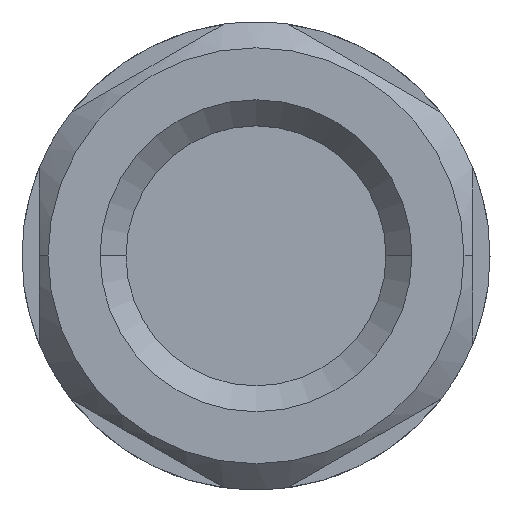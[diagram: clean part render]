
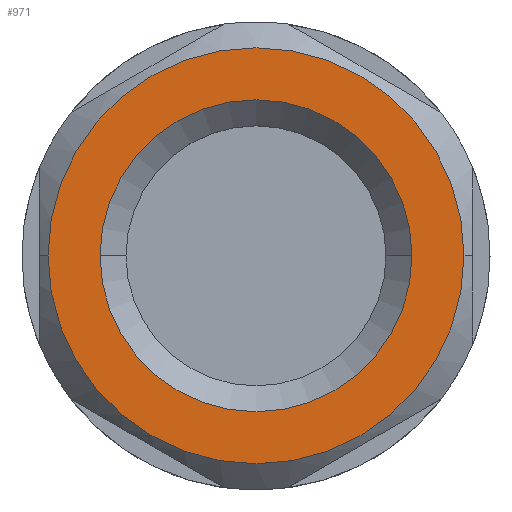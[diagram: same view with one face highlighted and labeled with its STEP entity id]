
A CAD part, top view. The second image highlights one B-rep face of the part: STEP entity #971.
In plain terms, the highlighted planar face has unit normal (0, 0, 1).
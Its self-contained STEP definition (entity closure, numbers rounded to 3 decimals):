
#2 = ORIENTED_EDGE ( 'NONE', *, *, #1022, .F. ) ;
#76 = VERTEX_POINT ( 'NONE', #826 ) ;
#78 = CARTESIAN_POINT ( 'NONE',  ( 8.999, 0., 9. ) ) ;
#86 = ORIENTED_EDGE ( 'NONE', *, *, #174, .F. ) ;
#92 = FACE_BOUND ( 'NONE', #770, .T. ) ;
#113 = DIRECTION ( 'NONE',  ( -1., 0., 0. ) ) ;
#133 = CIRCLE ( 'NONE', #365, 8.999 ) ;
#154 = DIRECTION ( 'NONE',  ( 0., 0., 1. ) ) ;
#163 = CARTESIAN_POINT ( 'NONE',  ( 12., 0., 9. ) ) ;
#166 = DIRECTION ( 'NONE',  ( 1., 0., 0. ) ) ;
#174 = EDGE_CURVE ( 'NONE', #403, #523, #133, .T. ) ;
#188 = CARTESIAN_POINT ( 'NONE',  ( 0., 12., 9. ) ) ;
#199 = DIRECTION ( 'NONE',  ( 0., 0., -1. ) ) ;
#273 = ORIENTED_EDGE ( 'NONE', *, *, #592, .F. ) ;
#284 = AXIS2_PLACEMENT_3D ( 'NONE', #188, #703, #863 ) ;
#327 = DIRECTION ( 'NONE',  ( 1., 0., 0. ) ) ;
#365 = AXIS2_PLACEMENT_3D ( 'NONE', #1059, #154, #327 ) ;
#373 = CARTESIAN_POINT ( 'NONE',  ( 0., 0., 9. ) ) ;
#403 = VERTEX_POINT ( 'NONE', #891 ) ;
#404 = AXIS2_PLACEMENT_3D ( 'NONE', #675, #422, #732 ) ;
#418 = AXIS2_PLACEMENT_3D ( 'NONE', #678, #943, #166 ) ;
#422 = DIRECTION ( 'NONE',  ( 0., 0., -1. ) ) ;
#474 = CIRCLE ( 'NONE', #687, 12. ) ;
#509 = VERTEX_POINT ( 'NONE', #163 ) ;
#523 = VERTEX_POINT ( 'NONE', #78 ) ;
#524 = PLANE ( 'NONE',  #284 ) ;
#592 = EDGE_CURVE ( 'NONE', #509, #76, #892, .T. ) ;
#675 = CARTESIAN_POINT ( 'NONE',  ( 0., 0., 9. ) ) ;
#678 = CARTESIAN_POINT ( 'NONE',  ( 0., 0., 9. ) ) ;
#687 = AXIS2_PLACEMENT_3D ( 'NONE', #373, #199, #113 ) ;
#703 = DIRECTION ( 'NONE',  ( 0., 0., 1. ) ) ;
#732 = DIRECTION ( 'NONE',  ( -1., 0., 0. ) ) ;
#770 = EDGE_LOOP ( 'NONE', ( #951, #86 ) ) ;
#797 = FACE_OUTER_BOUND ( 'NONE', #886, .T. ) ;
#826 = CARTESIAN_POINT ( 'NONE',  ( -12., 0., 9. ) ) ;
#827 = EDGE_CURVE ( 'NONE', #523, #403, #999, .T. ) ;
#863 = DIRECTION ( 'NONE',  ( 1., 0., 0. ) ) ;
#886 = EDGE_LOOP ( 'NONE', ( #2, #273 ) ) ;
#891 = CARTESIAN_POINT ( 'NONE',  ( -8.999, 0., 9. ) ) ;
#892 = CIRCLE ( 'NONE', #404, 12. ) ;
#943 = DIRECTION ( 'NONE',  ( 0., 0., 1. ) ) ;
#951 = ORIENTED_EDGE ( 'NONE', *, *, #827, .F. ) ;
#971 = ADVANCED_FACE ( 'NONE', ( #92, #797 ), #524, .T. ) ;
#999 = CIRCLE ( 'NONE', #418, 8.999 ) ;
#1022 = EDGE_CURVE ( 'NONE', #76, #509, #474, .T. ) ;
#1059 = CARTESIAN_POINT ( 'NONE',  ( 0., 0., 9. ) ) ;
